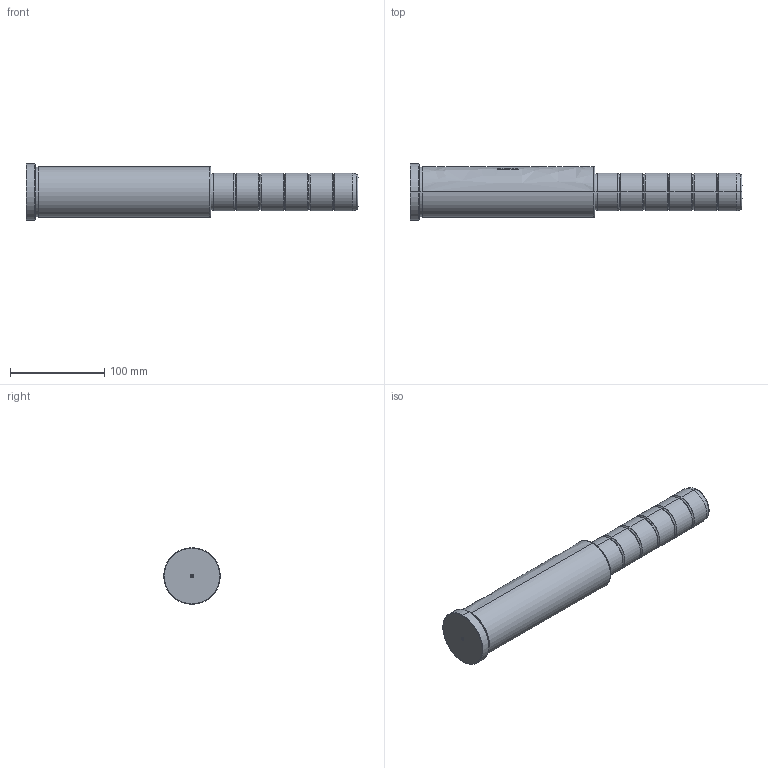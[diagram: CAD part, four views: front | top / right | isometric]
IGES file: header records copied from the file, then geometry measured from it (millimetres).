
Start section: SolidWorks IGES file using analytic representation for surfaces
Global section: file name: D:\TRIVECTOR\2026\08_Agosto\CM - COLUNA PRINCIPAL E31 (CATÁLOGO)\CM40196156.IGS; native system: SolidWorks 2024; preprocessor: SolidWorks 2024; author: Usuario; date: 260831.173220; units: millimetre
Bounding box: 352 x 60 x 60 mm (x, y, z)
Surface area: 59588 mm2 (no closed solid volume)
Topology: 0 solids, 0 shells, 484 faces, 5627 edges, 5623 vertices
Faces by surface type: bspline 399, revolution 85
